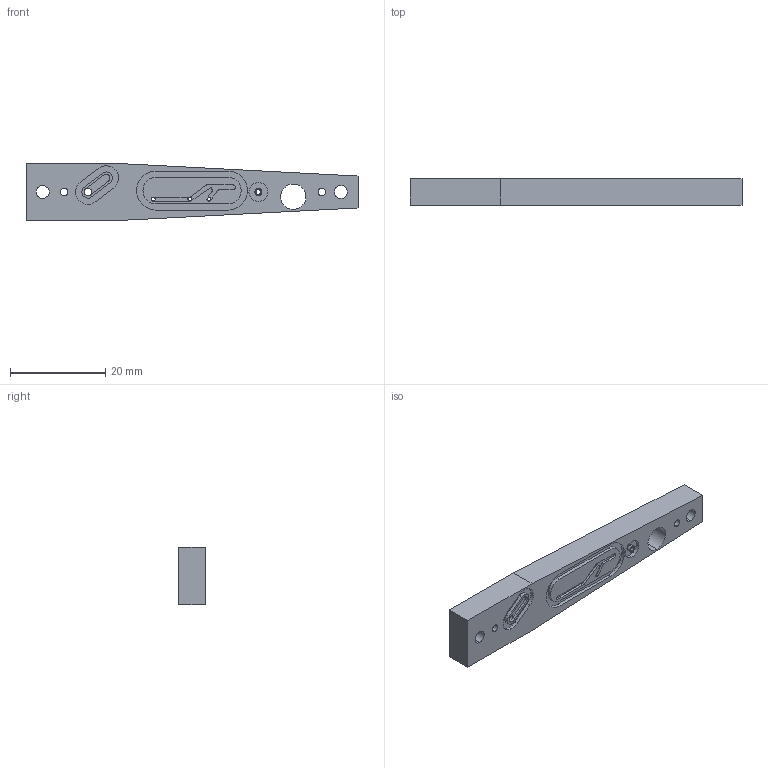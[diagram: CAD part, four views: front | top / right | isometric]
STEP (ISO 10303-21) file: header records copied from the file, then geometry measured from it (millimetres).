
FILE_DESCRIPTION (( 'STEP AP214' ), '1' );
FILE_NAME ('1001-0005.STEP', '2016-12-16T02:01:28', ( 'accelniotech' ), ( 'Microsoft' ), 'SwSTEP 2.0', 'SolidWorks 2015', '' );
FILE_SCHEMA (( 'AUTOMOTIVE_DESIGN' ));
Length unit declared in the file: millimetre
Products named in the file (1): 1001-0005
Bounding box: 69.58 x 5.5 x 12 mm (x, y, z)
Volume: 3535.4 mm3; surface area: 2650.8 mm2
Topology: 1 solids, 1 shells, 82 faces, 221 edges, 145 vertices
Faces by surface type: cylinder 42, plane 36, cone 4
Entity records: 2676 total; most frequent: DIRECTION 480, CARTESIAN_POINT 449, ORIENTED_EDGE 442, EDGE_CURVE 221, AXIS2_PLACEMENT_3D 176, VERTEX_POINT 145, LINE 128, VECTOR 128
